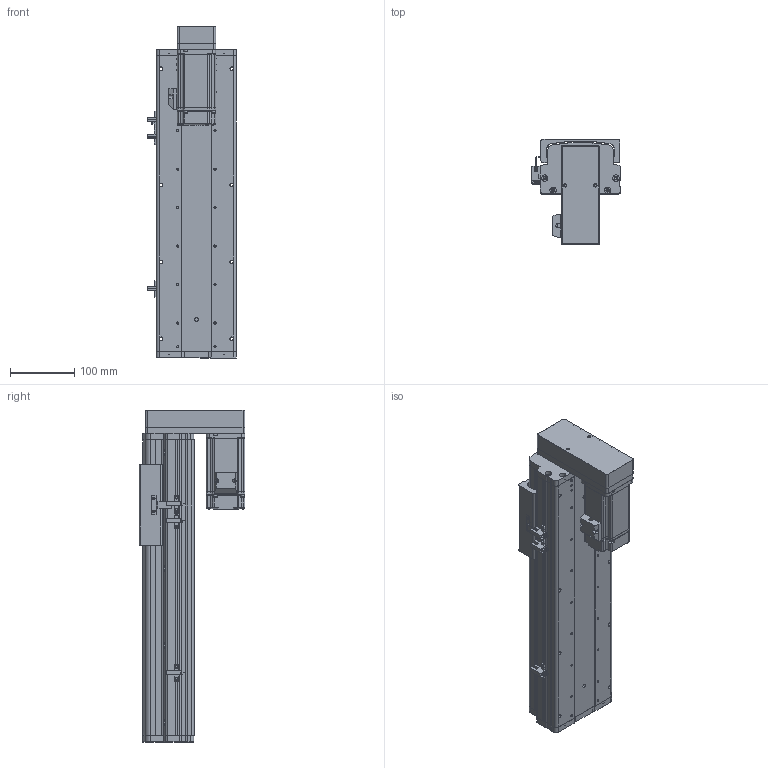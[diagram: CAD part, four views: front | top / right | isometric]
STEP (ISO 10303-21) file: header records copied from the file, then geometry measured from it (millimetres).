
FILE_DESCRIPTION (( 'STEP AP214' ), '1' );
FILE_NAME ('KSD125S-S250-MD-CM.STEP', '2017-10-21T07:57:55', ( '微软用户' ), ( '微软中国' ), 'SwSTEP 2.0', 'SolidWorks 2014', '' );
FILE_SCHEMA (( 'AUTOMOTIVE_DESIGN' ));
Length unit declared in the file: millimetre
Products named in the file (16): 拸萇儂釱滅袉菜; 拸萇儂釱滅袉菜-1; 覜茼え68遵圉猾敕; U倰嫖萇假蚾璃; U倰嫖萇EEㄜSX672; ヶ傷啣-125遵耀郪; KSD125-賑雄釱1; 125-帣傷啣1; KSD125S-S250-MD-CM; 125宽马达安装板连板上下折丝杆同步带; 125遵悵誘欶奻狟殏; HTPA30S3M150_A_H6_a佪裝蚚; HTPA30S3M150_A_H6_a萇儂蚚; KSD125S-250俴最佪裝滅鳥裔; KSD125S-250俴最佪裝菁啣; MHMD042G1CA_2_03
Assembly tree (19 placements, depth 2):
  KSD125S-S250-MD-CM
    125-帣傷啣1
    KSD125-賑雄釱1
    ヶ傷啣-125遵耀郪
    U倰嫖萇EEㄜSX672  x3
    U倰嫖萇假蚾璃  x3
    覜茼え68遵圉猾敕
    拸萇儂釱滅袉菜-1
    拸萇儂釱滅袉菜
    MHMD042G1CA_2_03
    KSD125S-250俴最佪裝菁啣
    KSD125S-250俴最佪裝滅鳥裔
    HTPA30S3M150_A_H6_a萇儂蚚
    HTPA30S3M150_A_H6_a佪裝蚚
    125遵悵誘欶奻狟殏
    125宽马达安装板连板上下折丝杆同步带
Bounding box: 138.7 x 165 x 517.5 mm (x, y, z)
Volume: 1949737.7 mm3; surface area: 692132.4 mm2
Topology: 18 solids, 21 shells, 2147 faces, 6219 edges, 4101 vertices
Faces by surface type: cylinder 1330, plane 676, cone 119, bspline 22
Entity records: 76607 total; most frequent: CARTESIAN_POINT 15361, DIRECTION 11773, ORIENTED_EDGE 10946, EDGE_CURVE 5551, AXIS2_PLACEMENT_3D 4539, VERTEX_POINT 3693, VECTOR 2695, LINE 2695
